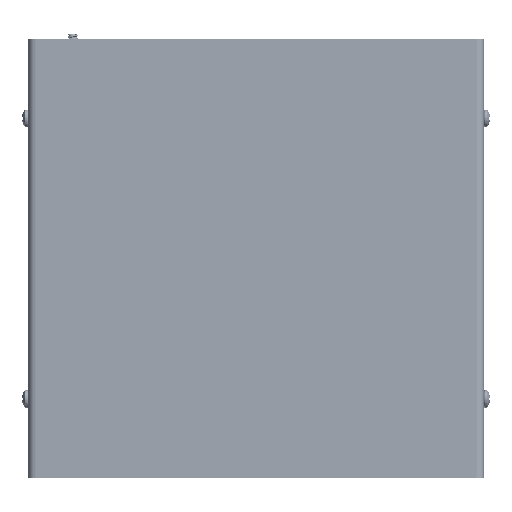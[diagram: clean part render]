
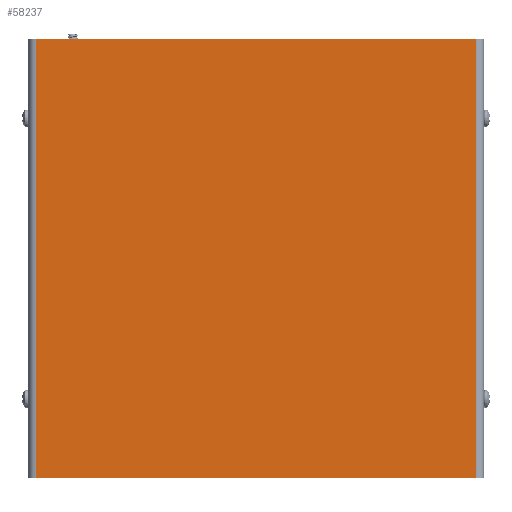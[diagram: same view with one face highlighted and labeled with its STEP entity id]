
A CAD part, top view. The second image highlights one B-rep face of the part: STEP entity #58237.
In plain terms, the highlighted planar face has unit normal (0, 0, 1) as drawn and (0, 0, -1) by its records, which use the part's own axes.
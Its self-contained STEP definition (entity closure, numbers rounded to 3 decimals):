
#7674=FACE_OUTER_BOUND('',#11018,.T.);
#11018=EDGE_LOOP('',(#49410,#49411,#49412,#49413));
#16047=LINE('',#107080,#21187);
#16051=LINE('',#107093,#21191);
#16056=LINE('',#107103,#21196);
#16063=LINE('',#107119,#21203);
#21187=VECTOR('',#70118,10.);
#21191=VECTOR('',#70130,10.);
#21196=VECTOR('',#70139,10.);
#21203=VECTOR('',#70156,10.);
#26378=VERTEX_POINT('',#107073);
#26381=VERTEX_POINT('',#107078);
#26386=VERTEX_POINT('',#107092);
#26389=VERTEX_POINT('',#107102);
#34178=EDGE_CURVE('',#26381,#26378,#16047,.T.);
#34184=EDGE_CURVE('',#26378,#26386,#16051,.T.);
#34190=EDGE_CURVE('',#26386,#26389,#16056,.T.);
#34200=EDGE_CURVE('',#26389,#26381,#16063,.T.);
#49410=ORIENTED_EDGE('',*,*,#34178,.F.);
#49411=ORIENTED_EDGE('',*,*,#34200,.F.);
#49412=ORIENTED_EDGE('',*,*,#34190,.F.);
#49413=ORIENTED_EDGE('',*,*,#34184,.F.);
#53423=PLANE('',#60829);
#58237=ADVANCED_FACE('',(#7674),#53423,.F.);
#60829=AXIS2_PLACEMENT_3D('',#107131,#70175,#70176);
#70118=DIRECTION('',(0.,-1.,0.));
#70130=DIRECTION('',(1.,0.,0.));
#70139=DIRECTION('',(0.,1.,0.));
#70156=DIRECTION('',(-1.,0.,0.));
#70175=DIRECTION('center_axis',(0.,0.,1.));
#70176=DIRECTION('ref_axis',(1.,0.,0.));
#107073=CARTESIAN_POINT('',(2.489,0.,0.));
#107078=CARTESIAN_POINT('',(2.489,140.716,0.));
#107080=CARTESIAN_POINT('',(2.489,105.537,0.));
#107092=CARTESIAN_POINT('',(143.536,0.,0.));
#107093=CARTESIAN_POINT('',(0.,0.,0.));
#107102=CARTESIAN_POINT('',(143.536,140.716,0.));
#107103=CARTESIAN_POINT('',(143.536,35.179,0.));
#107119=CARTESIAN_POINT('',(146.025,140.716,0.));
#107131=CARTESIAN_POINT('Origin',(73.012,70.358,0.));
